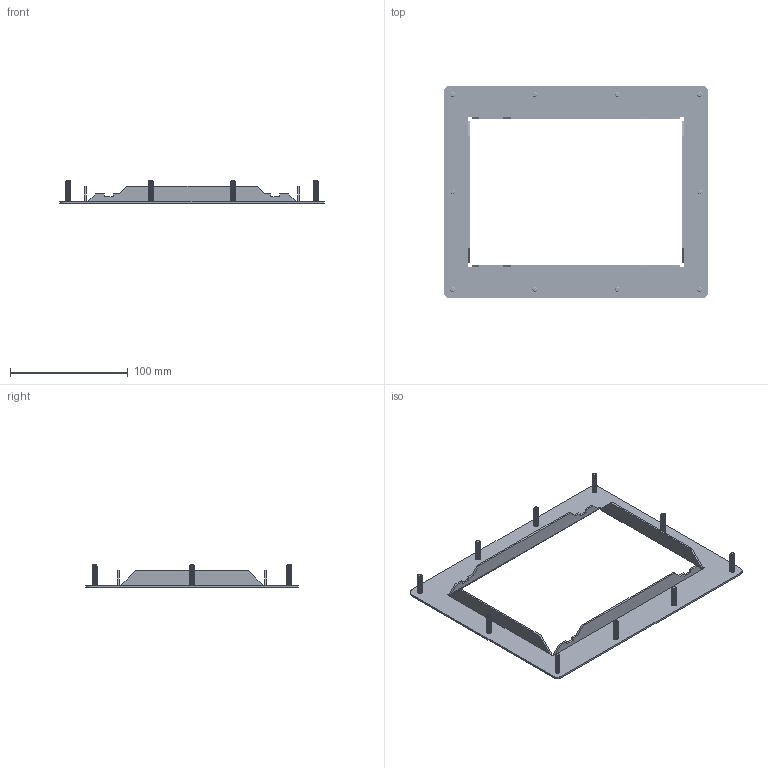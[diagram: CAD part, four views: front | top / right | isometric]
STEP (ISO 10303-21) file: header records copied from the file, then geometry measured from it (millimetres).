
FILE_DESCRIPTION(/* description */ ('Unknown'),/* implementation_level */ '2;1');
FILE_NAME(/* name */ 'G306 to CR100007 adapter plate 10-24-17',/* time_stamp */ '2017-10-24T15:19:40-04:00',/* author */ ('Unknown'),/* organization */ ('Unknown'),/* preprocessor_version */ 'ST-DEVELOPER v16.7',/* originating_system */ 'DEX',/* authorisation */ $);
FILE_SCHEMA (('AUTOMOTIVE_DESIGN {1 0 10303 214 3 1 1}'));
Products named in the file (1): G306 to CR100007 adapter plate 10-24-17
Bounding box: 224.28 x 179.83 x 19.05 mm (x, y, z)
Volume: 38808.2 mm3; surface area: 54251.6 mm2
Topology: 1 solids, 1 shells, 644 faces, 1834 edges, 1202 vertices
Faces by surface type: cylinder 458, plane 76, cone 50, bspline 30, torus 30
Entity records: 89954 total; most frequent: CARTESIAN_POINT 71611, ORIENTED_EDGE 3668, DIRECTION 2180, EDGE_CURVE 1834, VERTEX_POINT 1202, AXIS2_PLACEMENT_3D 771, EDGE_LOOP 656, FACE_BOUND 656
